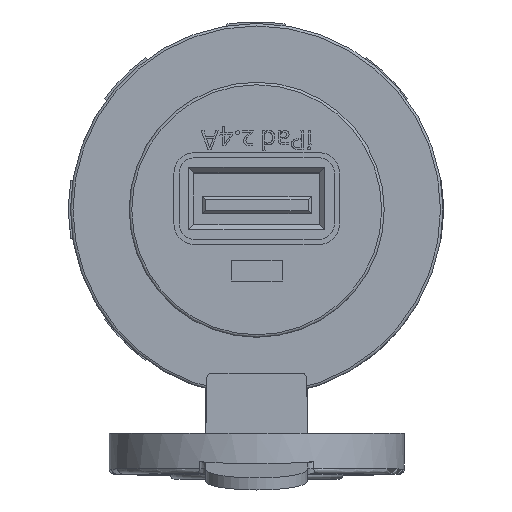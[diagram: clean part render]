
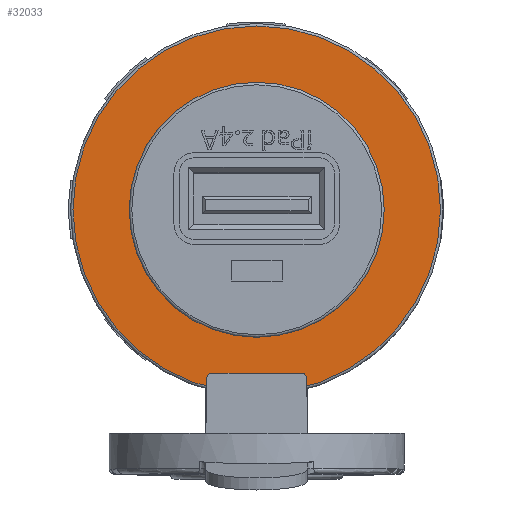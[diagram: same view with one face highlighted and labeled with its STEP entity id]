
A CAD part, top view. The second image highlights one B-rep face of the part: STEP entity #32033.
In plain terms, the highlighted planar face has unit normal (0, 0, 1) as drawn and (0, 0, -1) by its records, which use the part's own axes.
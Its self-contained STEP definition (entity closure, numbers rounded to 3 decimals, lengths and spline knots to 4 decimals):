
#745=FACE_BOUND('',#5875,.T.);
#1662=PLANE('',#34962);
#3961=FACE_OUTER_BOUND('',#5874,.T.);
#5874=EDGE_LOOP('',(#28231));
#5875=EDGE_LOOP('',(#28232));
#13395=CIRCLE('',#34700,0.7106);
#13398=CIRCLE('',#34704,0.4931);
#15572=VERTEX_POINT('',#91819);
#15574=VERTEX_POINT('',#91825);
#19663=EDGE_CURVE('',#15572,#15572,#13395,.T.);
#19666=EDGE_CURVE('',#15574,#15574,#13398,.T.);
#28231=ORIENTED_EDGE('',*,*,#19663,.T.);
#28232=ORIENTED_EDGE('',*,*,#19666,.F.);
#32033=ADVANCED_FACE('',(#3961,#745),#1662,.T.);
#34700=AXIS2_PLACEMENT_3D('',#91820,#41297,#41298);
#34704=AXIS2_PLACEMENT_3D('',#91826,#41305,#41306);
#34962=AXIS2_PLACEMENT_3D('',#93859,#42003,#42004);
#41297=DIRECTION('center_axis',(0.,0.,-1.));
#41298=DIRECTION('ref_axis',(-1.,0.,0.));
#41305=DIRECTION('center_axis',(0.,0.,-1.));
#41306=DIRECTION('ref_axis',(-1.,0.,0.));
#42003=DIRECTION('center_axis',(0.,0.,-1.));
#42004=DIRECTION('ref_axis',(-1.,0.,0.));
#91819=CARTESIAN_POINT('',(0.7106,0.,0.0197));
#91820=CARTESIAN_POINT('Origin',(0.,0.,0.0197));
#91825=CARTESIAN_POINT('',(-0.4931,0.,0.0197));
#91826=CARTESIAN_POINT('Origin',(0.,0.,0.0197));
#93859=CARTESIAN_POINT('Origin',(0.,0.,0.0197));
